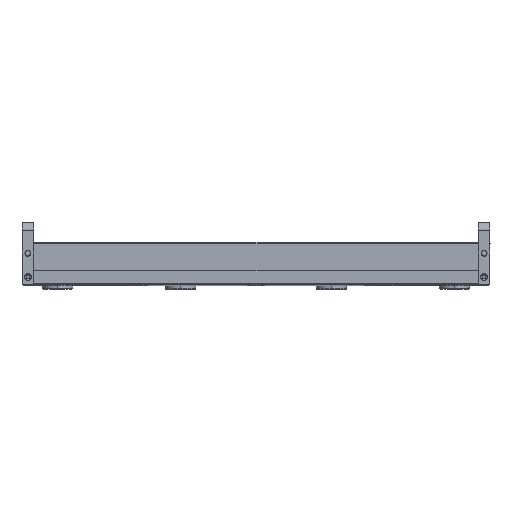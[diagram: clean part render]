
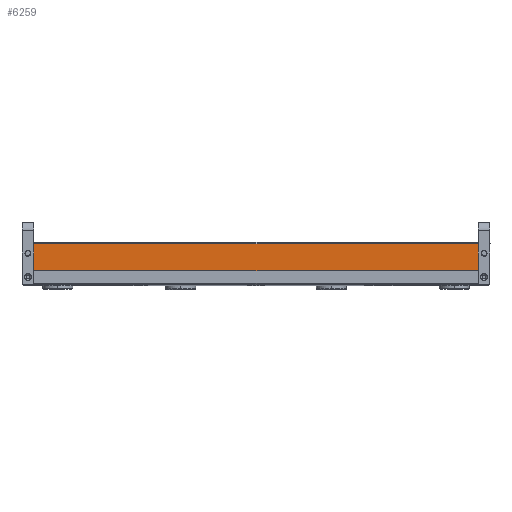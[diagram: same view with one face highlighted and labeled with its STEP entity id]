
A CAD part, top view. The second image highlights one B-rep face of the part: STEP entity #6259.
In plain terms, the highlighted planar face has unit normal (0, 0, 1).
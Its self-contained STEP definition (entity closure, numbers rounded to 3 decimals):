
#2620 = DIRECTION ( 'NONE',  ( 0., -1., 0. ) ) ;
#2621 = CARTESIAN_POINT ( 'NONE',  ( 15., 36., 0. ) ) ;
#2622 = DIRECTION ( 'NONE',  ( -1., 0., 0. ) ) ;
#2624 = CARTESIAN_POINT ( 'NONE',  ( 295., 18., 0. ) ) ;
#2625 = CARTESIAN_POINT ( 'NONE',  ( 575., 36., 0. ) ) ;
#2626 = DIRECTION ( 'NONE',  ( 0., 1., 0. ) ) ;
#2627 = DIRECTION ( 'NONE',  ( -1., 0., 0. ) ) ;
#2629 = CARTESIAN_POINT ( 'NONE',  ( 295., 52., 0. ) ) ;
#2763 = CARTESIAN_POINT ( 'NONE',  ( 575., 18., 0. ) ) ;
#2817 = CARTESIAN_POINT ( 'NONE',  ( 575., 52., 0. ) ) ;
#2826 = CARTESIAN_POINT ( 'NONE',  ( 15., 18., 0. ) ) ;
#2894 = CARTESIAN_POINT ( 'NONE',  ( 15., 52., 0. ) ) ;
#4578 = ORIENTED_EDGE ( 'NONE', *, *, #9063, .T. ) ;
#5645 = DIRECTION ( 'NONE',  ( -1., 0., 0. ) ) ;
#5651 = DIRECTION ( 'NONE',  ( 0., 0., -1. ) ) ;
#5664 = CARTESIAN_POINT ( 'NONE',  ( 575., 18., 0. ) ) ;
#5665 = PLANE ( 'NONE',  #8332 ) ;
#6259 = ADVANCED_FACE ( 'NONE', ( #9861 ), #5665, .F. ) ;
#6757 = EDGE_LOOP ( 'NONE', ( #4578, #7745, #7326, #7717 ) ) ;
#7326 = ORIENTED_EDGE ( 'NONE', *, *, #9065, .T. ) ;
#7717 = ORIENTED_EDGE ( 'NONE', *, *, #9066, .T. ) ;
#7745 = ORIENTED_EDGE ( 'NONE', *, *, #9064, .F. ) ;
#8332 = AXIS2_PLACEMENT_3D ( 'NONE', #5664, #5651, #5645 ) ;
#8609 = VERTEX_POINT ( 'NONE', #2894 ) ;
#8800 = VERTEX_POINT ( 'NONE', #2763 ) ;
#8813 = VERTEX_POINT ( 'NONE', #2817 ) ;
#8819 = VERTEX_POINT ( 'NONE', #2826 ) ;
#9063 = EDGE_CURVE ( 'NONE', #8609, #8819, #10450, .T. ) ;
#9064 = EDGE_CURVE ( 'NONE', #8800, #8819, #10452, .T. ) ;
#9065 = EDGE_CURVE ( 'NONE', #8800, #8813, #10454, .T. ) ;
#9066 = EDGE_CURVE ( 'NONE', #8813, #8609, #10456, .T. ) ;
#9861 = FACE_OUTER_BOUND ( 'NONE', #6757, .T. ) ;
#10450 = LINE ( 'NONE', #2621, #10451 ) ;
#10451 = VECTOR ( 'NONE', #2620, 1000. ) ;
#10452 = LINE ( 'NONE', #2624, #10453 ) ;
#10453 = VECTOR ( 'NONE', #2622, 1000. ) ;
#10454 = LINE ( 'NONE', #2625, #10455 ) ;
#10455 = VECTOR ( 'NONE', #2626, 1000. ) ;
#10456 = LINE ( 'NONE', #2629, #10457 ) ;
#10457 = VECTOR ( 'NONE', #2627, 1000. ) ;
